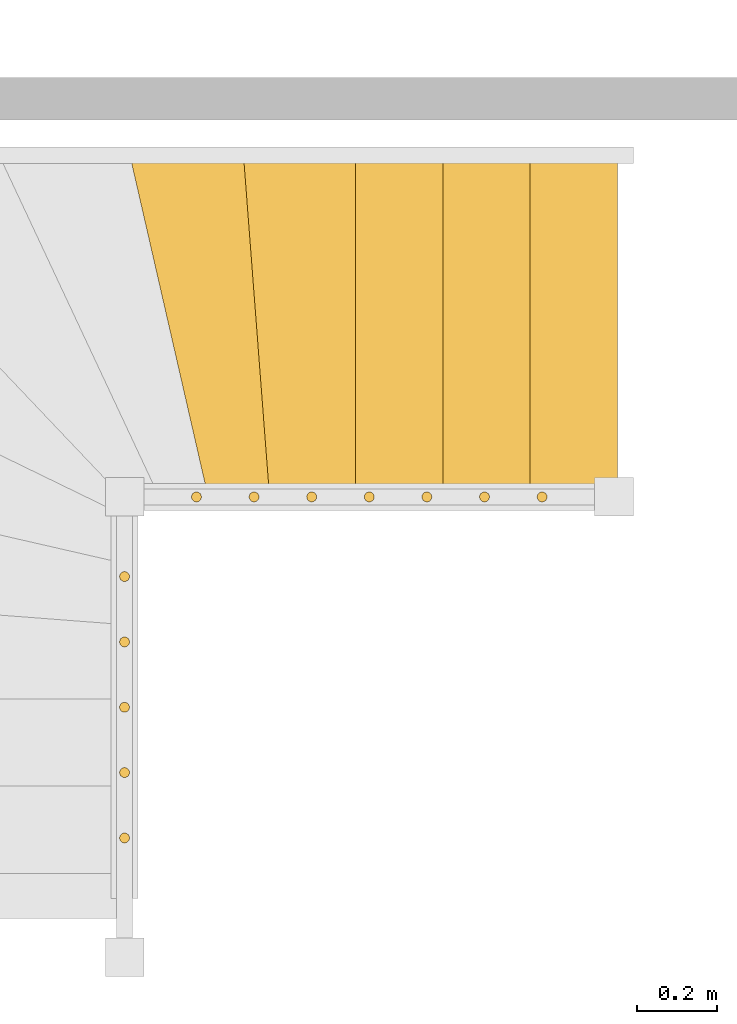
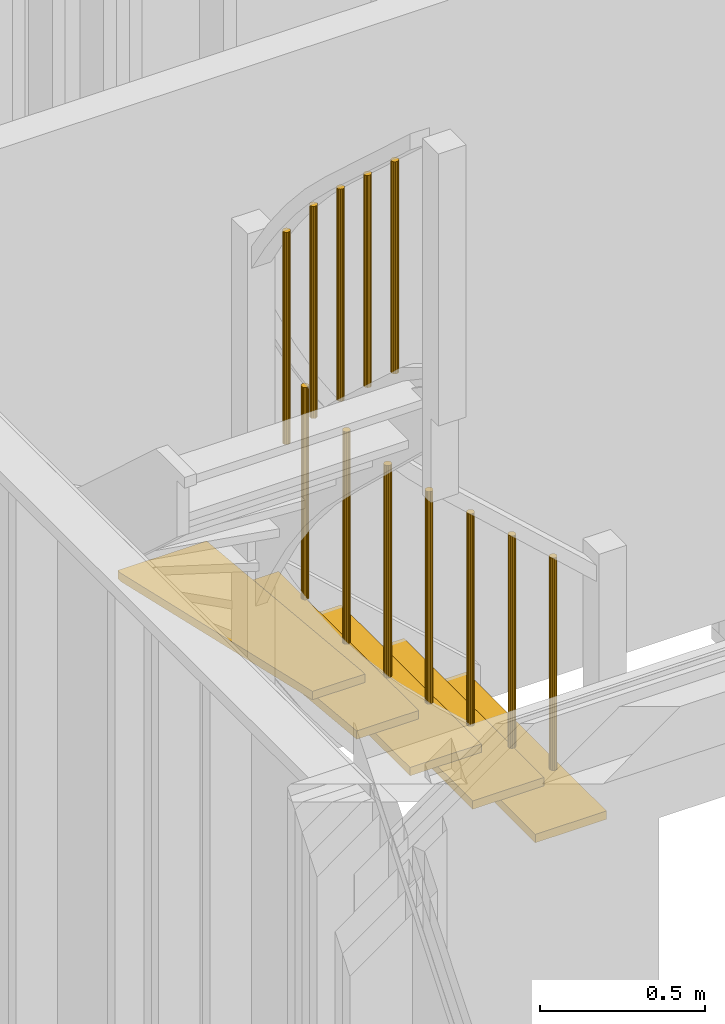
# One storey, part 32 of 34: 17 curtain walls.
"""IFC2X3 building model written with IfcOpenShell, lengths in metres."""

from ifc_helpers import new_model, si_unit, direction, frame, origin_with_axes, place, context, subcontext, project, spatial, faceted_brep, material, element, save


model = new_model("IFC2X3")

# Units and contexts
model_context = context("Model", 3, precision=1e-06, world=origin_with_axes(), true_north=direction((0.0, 1.0, 0.0)))
body_context = subcontext(model_context, "Body", "Model", "MODEL_VIEW")
ifc_project = project(units=[si_unit("LENGTHUNIT", "METRE"), si_unit("AREAUNIT", "SQUARE_METRE"), si_unit("VOLUMEUNIT", "CUBIC_METRE"), si_unit("PLANEANGLEUNIT", "RADIAN")], contexts=[model_context])

# Site, building, storey
site_placement = place(None, origin_with_axes())
site = spatial("IfcSite", under=ifc_project, at=site_placement, CompositionType="ELEMENT")
building_placement = place(site_placement, origin_with_axes())
building = spatial("IfcBuilding", under=site, at=building_placement, Name="Building 1", CompositionType="ELEMENT")
storey_placement = place(building_placement, origin_with_axes())
storey = spatial("IfcBuildingStorey", under=building, at=storey_placement, Name="Rez de chaussée", CompositionType="ELEMENT", Elevation=0.0)

# Curtain walls
ifc_material = material(Name="NH II")
curtain_wall_1_placement = place(storey_placement, frame((5.023565, 3.5032176, 0.756858), z_axis=(0.0, 0.0, 1.0), x_axis=(0.0, 1.0, 0.0)))
element("IfcCurtainWall", 1, at=curtain_wall_1_placement, inside=storey, material=ifc_material, Name="Escalier", context=body_context, shape_type="Brep", body=[
    faceted_brep([(0.85, -0.124685, -0.0155), (0.85, -0.124685, 0.0155), (0.0, -0.124685, 0.0155), (0.0, -0.124685, -0.0155), (0.85, 0.124685, 0.0155), (0.0, 0.124685, 0.0155), (0.85, 0.124685, -0.0155), (0.0, 0.124685, -0.0155)], [[[0, 1, 2, 3]], [[2, 1, 4, 5]], [[1, 0, 6, 4]], [[3, 2, 5, 7]], [[0, 3, 7, 6]], [[6, 7, 5, 4]]]),
])
curtain_wall_2_placement = place(storey_placement, frame((4.963, 3.4987176, 0.9963909), z_axis=(0.0, 0.0, 1.0), x_axis=(-1.0, 0.0, 0.0)))
element("IfcCurtainWall", 2, at=curtain_wall_2_placement, inside=storey, material=ifc_material, Name="Escalier", context=body_context, shape_type="Brep", body=[
    faceted_brep([(0.0117462, -0.0042753, 0.7861234), (0.0125, 0.0, 0.0), (0.0125, 0.0, 0.7861234), (0.0117462, 0.0042753, 0.0), (0.0117462, 0.0042753, 0.7861234), (0.0095756, 0.0080348, 0.0), (0.0095756, 0.0080348, 0.7861234), (0.00625, 0.0108253, 0.0), (0.00625, 0.0108253, 0.7861234), (0.0021706, 0.0123101, 0.0), (0.0021706, 0.0123101, 0.7861234), (-0.0021706, 0.0123101, 0.0), (-0.0021706, 0.0123101, 0.7861234), (-0.00625, 0.0108253, 0.0), (-0.00625, 0.0108253, 0.7861234), (-0.0095756, 0.0080348, 0.0), (-0.0095756, 0.0080348, 0.7861234), (-0.0117462, 0.0042753, 0.0), (-0.0117462, 0.0042753, 0.7861234), (-0.0125, 0.0, 0.0), (-0.0125, 0.0, 0.7861234), (-0.0117462, -0.0042753, 0.0), (-0.0117462, -0.0042753, 0.7861234), (-0.0095756, -0.0080348, 0.0), (-0.0095756, -0.0080348, 0.7861234), (-0.00625, -0.0108253, 0.0), (-0.00625, -0.0108253, 0.7861234), (-0.0021706, -0.0123101, 0.0), (-0.0021706, -0.0123101, 0.7861234), (0.0021706, -0.0123101, 0.0), (0.0021706, -0.0123101, 0.7861234), (0.00625, -0.0108253, 0.0), (0.00625, -0.0108253, 0.7861234), (0.0095756, -0.0080348, 0.0), (0.0095756, -0.0080348, 0.7861234), (0.0117462, -0.0042753, 0.0)], [[[0, 1, 2]], [[2, 1, 3]], [[2, 3, 4]], [[4, 3, 5]], [[4, 5, 6]], [[6, 5, 7]], [[6, 7, 8]], [[8, 7, 9]], [[8, 9, 10]], [[10, 9, 11]], [[10, 11, 12]], [[12, 11, 13]], [[12, 13, 14]], [[14, 13, 15]], [[14, 15, 16]], [[16, 15, 17]], [[16, 17, 18]], [[18, 17, 19]], [[18, 19, 20]], [[20, 19, 21]], [[20, 21, 22]], [[22, 21, 23]], [[22, 23, 24]], [[24, 23, 25]], [[24, 25, 26]], [[26, 25, 27]], [[26, 27, 28]], [[28, 27, 29]], [[28, 29, 30]], [[30, 29, 31]], [[30, 31, 32]], [[32, 31, 33]], [[32, 33, 34]], [[34, 33, 35]], [[34, 35, 0]], [[0, 35, 1]], [[10, 12, 8]], [[8, 12, 14]], [[8, 14, 6]], [[6, 14, 16]], [[6, 16, 4]], [[4, 16, 18]], [[4, 18, 2]], [[2, 18, 20]], [[2, 20, 0]], [[0, 20, 22]], [[0, 22, 34]], [[34, 22, 24]], [[34, 24, 32]], [[32, 24, 26]], [[32, 26, 30]], [[30, 26, 28]], [[29, 27, 31]], [[31, 27, 25]], [[31, 25, 33]], [[33, 25, 23]], [[33, 23, 35]], [[35, 23, 21]], [[35, 21, 1]], [[1, 21, 19]], [[1, 19, 3]], [[3, 19, 17]], [[3, 17, 5]], [[5, 17, 15]], [[5, 15, 7]], [[7, 15, 13]], [[7, 13, 9]], [[9, 13, 11]]]),
])
curtain_wall_3_placement = place(storey_placement, frame((4.5865516, 3.4914387, 1.15843), z_axis=(0.0, 0.0, 1.0), x_axis=(-0.0761669, 0.9970951, 0.0)))
element("IfcCurtainWall", 3, at=curtain_wall_3_placement, inside=storey, material=ifc_material, Name="Escalier", context=body_context, shape_type="Brep", body=[
    faceted_brep([(0.8601492, 0.1558642, 0.0155), (0.0140146, 0.028819, 0.0155), (0.0, -0.1546456, 0.0155), (0.0159535, -0.1558642, 0.0155), (0.8523833, -0.1558642, 0.0155), (0.8761027, 0.1546456, 0.0155), (0.8523833, -0.1558642, -0.0155), (0.8761027, 0.1546456, -0.0155), (0.0140146, 0.028819, -0.0155), (0.0, -0.1546456, -0.0155), (0.0159535, -0.1558642, -0.0155), (0.8601492, 0.1558642, -0.0155)], [[[0, 1, 2, 3, 4, 5]], [[4, 6, 7, 5]], [[1, 8, 9, 2]], [[9, 10, 3, 2]], [[7, 11, 0, 5]], [[10, 6, 4, 3]], [[8, 11, 7, 6, 10, 9]], [[11, 8, 1, 0]]]),
])
curtain_wall_4_placement = place(storey_placement, frame((5.462315, 3.5032176, 0.355286), z_axis=(0.0, 0.0, 1.0), x_axis=(0.0, 1.0, 0.0)))
element("IfcCurtainWall", 4, at=curtain_wall_4_placement, inside=storey, material=ifc_material, Name="Escalier", context=body_context, shape_type="Brep", body=[
    faceted_brep([(0.85, -0.124685, -0.0155), (0.85, -0.124685, 0.0155), (0.0, -0.124685, 0.0155), (0.0, -0.124685, -0.0155), (0.85, 0.124685, 0.0155), (0.0, 0.124685, 0.0155), (0.85, 0.124685, -0.0155), (0.0, 0.124685, -0.0155)], [[[0, 1, 2, 3]], [[2, 1, 4, 5]], [[1, 0, 6, 4]], [[3, 2, 5, 7]], [[0, 3, 7, 6]], [[6, 7, 5, 4]]]),
])
curtain_wall_5_placement = place(storey_placement, frame((4.818125, 3.4987176, 1.1439397), z_axis=(0.0, 0.0, 1.0), x_axis=(-1.0, 0.0, 0.0)))
element("IfcCurtainWall", 5, at=curtain_wall_5_placement, inside=storey, material=ifc_material, Name="Escalier", context=body_context, shape_type="Brep", body=[
    faceted_brep([(0.0117462, -0.0042753, 0.7861234), (0.0125, 0.0, 0.0), (0.0125, 0.0, 0.7861234), (0.0117462, 0.0042753, 0.0), (0.0117462, 0.0042753, 0.7861234), (0.0095756, 0.0080348, 0.0), (0.0095756, 0.0080348, 0.7861234), (0.00625, 0.0108253, 0.0), (0.00625, 0.0108253, 0.7861234), (0.0021706, 0.0123101, 0.0), (0.0021706, 0.0123101, 0.7861234), (-0.0021706, 0.0123101, 0.0), (-0.0021706, 0.0123101, 0.7861234), (-0.00625, 0.0108253, 0.0), (-0.00625, 0.0108253, 0.7861234), (-0.0095756, 0.0080348, 0.0), (-0.0095756, 0.0080348, 0.7861234), (-0.0117462, 0.0042753, 0.0), (-0.0117462, 0.0042753, 0.7861234), (-0.0125, 0.0, 0.0), (-0.0125, 0.0, 0.7861234), (-0.0117462, -0.0042753, 0.0), (-0.0117462, -0.0042753, 0.7861234), (-0.0095756, -0.0080348, 0.0), (-0.0095756, -0.0080348, 0.7861234), (-0.00625, -0.0108253, 0.0), (-0.00625, -0.0108253, 0.7861234), (-0.0021706, -0.0123101, 0.0), (-0.0021706, -0.0123101, 0.7861234), (0.0021706, -0.0123101, 0.0), (0.0021706, -0.0123101, 0.7861234), (0.00625, -0.0108253, 0.0), (0.00625, -0.0108253, 0.7861234), (0.0095756, -0.0080348, 0.0), (0.0095756, -0.0080348, 0.7861234), (0.0117462, -0.0042753, 0.0)], [[[0, 1, 2]], [[2, 1, 3]], [[2, 3, 4]], [[4, 3, 5]], [[4, 5, 6]], [[6, 5, 7]], [[6, 7, 8]], [[8, 7, 9]], [[8, 9, 10]], [[10, 9, 11]], [[10, 11, 12]], [[12, 11, 13]], [[12, 13, 14]], [[14, 13, 15]], [[14, 15, 16]], [[16, 15, 17]], [[16, 17, 18]], [[18, 17, 19]], [[18, 19, 20]], [[20, 19, 21]], [[20, 21, 22]], [[22, 21, 23]], [[22, 23, 24]], [[24, 23, 25]], [[24, 25, 26]], [[26, 25, 27]], [[26, 27, 28]], [[28, 27, 29]], [[28, 29, 30]], [[30, 29, 31]], [[30, 31, 32]], [[32, 31, 33]], [[32, 33, 34]], [[34, 33, 35]], [[34, 35, 0]], [[0, 35, 1]], [[10, 12, 8]], [[8, 12, 14]], [[8, 14, 6]], [[6, 14, 16]], [[6, 16, 4]], [[4, 16, 18]], [[4, 18, 2]], [[2, 18, 20]], [[2, 20, 0]], [[0, 20, 22]], [[0, 22, 34]], [[34, 22, 24]], [[34, 24, 32]], [[32, 24, 26]], [[32, 26, 30]], [[30, 26, 28]], [[29, 27, 31]], [[31, 27, 25]], [[31, 25, 33]], [[33, 25, 23]], [[33, 23, 35]], [[35, 23, 21]], [[35, 21, 1]], [[1, 21, 19]], [[1, 19, 3]], [[3, 19, 17]], [[3, 17, 5]], [[5, 17, 15]], [[5, 15, 7]], [[7, 15, 13]], [[7, 13, 9]], [[9, 13, 11]]]),
])
curtain_wall_6_placement = place(storey_placement, frame((4.3475, 2.6410509, 2.9539164), z_axis=(0.0, 0.0, 1.0), x_axis=(-1.0, 0.0, 0.0)))
element("IfcCurtainWall", 6, at=curtain_wall_6_placement, inside=storey, material=ifc_material, Name="Escalier", context=body_context, shape_type="Brep", body=[
    faceted_brep([(0.0117462, -0.0042753, 0.7861234), (0.0125, 0.0, 0.0), (0.0125, 0.0, 0.7861234), (0.0117462, 0.0042753, 0.0), (0.0117462, 0.0042753, 0.7861234), (0.0095756, 0.0080348, 0.0), (0.0095756, 0.0080348, 0.7861234), (0.00625, 0.0108253, 0.0), (0.00625, 0.0108253, 0.7861234), (0.0021706, 0.0123101, 0.0), (0.0021706, 0.0123101, 0.7861234), (-0.0021706, 0.0123101, 0.0), (-0.0021706, 0.0123101, 0.7861234), (-0.00625, 0.0108253, 0.0), (-0.00625, 0.0108253, 0.7861234), (-0.0095756, 0.0080348, 0.0), (-0.0095756, 0.0080348, 0.7861234), (-0.0117462, 0.0042753, 0.0), (-0.0117462, 0.0042753, 0.7861234), (-0.0125, 0.0, 0.0), (-0.0125, 0.0, 0.7861234), (-0.0117462, -0.0042753, 0.0), (-0.0117462, -0.0042753, 0.7861234), (-0.0095756, -0.0080348, 0.0), (-0.0095756, -0.0080348, 0.7861234), (-0.00625, -0.0108253, 0.0), (-0.00625, -0.0108253, 0.7861234), (-0.0021706, -0.0123101, 0.0), (-0.0021706, -0.0123101, 0.7861234), (0.0021706, -0.0123101, 0.0), (0.0021706, -0.0123101, 0.7861234), (0.00625, -0.0108253, 0.0), (0.00625, -0.0108253, 0.7861234), (0.0095756, -0.0080348, 0.0), (0.0095756, -0.0080348, 0.7861234), (0.0117462, -0.0042753, 0.0)], [[[0, 1, 2]], [[2, 1, 3]], [[2, 3, 4]], [[4, 3, 5]], [[4, 5, 6]], [[6, 5, 7]], [[6, 7, 8]], [[8, 7, 9]], [[8, 9, 10]], [[10, 9, 11]], [[10, 11, 12]], [[12, 11, 13]], [[12, 13, 14]], [[14, 13, 15]], [[14, 15, 16]], [[16, 15, 17]], [[16, 17, 18]], [[18, 17, 19]], [[18, 19, 20]], [[20, 19, 21]], [[20, 21, 22]], [[22, 21, 23]], [[22, 23, 24]], [[24, 23, 25]], [[24, 25, 26]], [[26, 25, 27]], [[26, 27, 28]], [[28, 27, 29]], [[28, 29, 30]], [[30, 29, 31]], [[30, 31, 32]], [[32, 31, 33]], [[32, 33, 34]], [[34, 33, 35]], [[34, 35, 0]], [[0, 35, 1]], [[10, 12, 8]], [[8, 12, 14]], [[8, 14, 6]], [[6, 14, 16]], [[6, 16, 4]], [[4, 16, 18]], [[4, 18, 2]], [[2, 18, 20]], [[2, 20, 0]], [[0, 20, 22]], [[0, 22, 34]], [[34, 22, 24]], [[34, 24, 32]], [[32, 24, 26]], [[32, 26, 30]], [[30, 26, 28]], [[29, 27, 31]], [[31, 27, 25]], [[31, 25, 33]], [[33, 25, 23]], [[33, 23, 35]], [[35, 23, 21]], [[35, 21, 1]], [[1, 21, 19]], [[1, 19, 3]], [[3, 19, 17]], [[3, 17, 5]], [[5, 17, 15]], [[5, 15, 7]], [[7, 15, 13]], [[7, 13, 9]], [[9, 13, 11]]]),
])
curtain_wall_7_placement = place(storey_placement, frame((4.3475, 3.2983842, 2.294061), z_axis=(0.0, 0.0, 1.0), x_axis=(-1.0, 0.0, 0.0)))
element("IfcCurtainWall", 7, at=curtain_wall_7_placement, inside=storey, material=ifc_material, Name="Escalier", context=body_context, shape_type="Brep", body=[
    faceted_brep([(0.0117462, -0.0042753, 0.7861234), (0.0125, 0.0, 0.0), (0.0125, 0.0, 0.7861234), (0.0117462, 0.0042753, 0.0), (0.0117462, 0.0042753, 0.7861234), (0.0095756, 0.0080348, 0.0), (0.0095756, 0.0080348, 0.7861234), (0.00625, 0.0108253, 0.0), (0.00625, 0.0108253, 0.7861234), (0.0021706, 0.0123101, 0.0), (0.0021706, 0.0123101, 0.7861234), (-0.0021706, 0.0123101, 0.0), (-0.0021706, 0.0123101, 0.7861234), (-0.00625, 0.0108253, 0.0), (-0.00625, 0.0108253, 0.7861234), (-0.0095756, 0.0080348, 0.0), (-0.0095756, 0.0080348, 0.7861234), (-0.0117462, 0.0042753, 0.0), (-0.0117462, 0.0042753, 0.7861234), (-0.0125, 0.0, 0.0), (-0.0125, 0.0, 0.7861234), (-0.0117462, -0.0042753, 0.0), (-0.0117462, -0.0042753, 0.7861234), (-0.0095756, -0.0080348, 0.0), (-0.0095756, -0.0080348, 0.7861234), (-0.00625, -0.0108253, 0.0), (-0.00625, -0.0108253, 0.7861234), (-0.0021706, -0.0123101, 0.0), (-0.0021706, -0.0123101, 0.7861234), (0.0021706, -0.0123101, 0.0), (0.0021706, -0.0123101, 0.7861234), (0.00625, -0.0108253, 0.0), (0.00625, -0.0108253, 0.7861234), (0.0095756, -0.0080348, 0.0), (0.0095756, -0.0080348, 0.7861234), (0.0117462, -0.0042753, 0.0)], [[[0, 1, 2]], [[2, 1, 3]], [[2, 3, 4]], [[4, 3, 5]], [[4, 5, 6]], [[6, 5, 7]], [[6, 7, 8]], [[8, 7, 9]], [[8, 9, 10]], [[10, 9, 11]], [[10, 11, 12]], [[12, 11, 13]], [[12, 13, 14]], [[14, 13, 15]], [[14, 15, 16]], [[16, 15, 17]], [[16, 17, 18]], [[18, 17, 19]], [[18, 19, 20]], [[20, 19, 21]], [[20, 21, 22]], [[22, 21, 23]], [[22, 23, 24]], [[24, 23, 25]], [[24, 25, 26]], [[26, 25, 27]], [[26, 27, 28]], [[28, 27, 29]], [[28, 29, 30]], [[30, 29, 31]], [[30, 31, 32]], [[32, 31, 33]], [[32, 33, 34]], [[34, 33, 35]], [[34, 35, 0]], [[0, 35, 1]], [[10, 12, 8]], [[8, 12, 14]], [[8, 14, 6]], [[6, 14, 16]], [[6, 16, 4]], [[4, 16, 18]], [[4, 18, 2]], [[2, 18, 20]], [[2, 20, 0]], [[0, 20, 22]], [[0, 22, 34]], [[34, 22, 24]], [[34, 24, 32]], [[32, 24, 26]], [[32, 26, 30]], [[30, 26, 28]], [[29, 27, 31]], [[31, 27, 25]], [[31, 25, 33]], [[33, 25, 23]], [[33, 23, 35]], [[35, 23, 21]], [[35, 21, 1]], [[1, 21, 19]], [[1, 19, 3]], [[3, 19, 17]], [[3, 17, 5]], [[5, 17, 15]], [[5, 15, 7]], [[7, 15, 13]], [[7, 13, 9]], [[9, 13, 11]]]),
])
curtain_wall_8_placement = place(storey_placement, frame((5.397625, 3.4987176, 0.5983395), z_axis=(0.0, 0.0, 1.0), x_axis=(-1.0, 0.0, 0.0)))
element("IfcCurtainWall", 8, at=curtain_wall_8_placement, inside=storey, material=ifc_material, Name="Escalier", context=body_context, shape_type="Brep", body=[
    faceted_brep([(0.0117462, -0.0042753, 0.7861234), (0.0125, 0.0, 0.0), (0.0125, 0.0, 0.7861234), (0.0117462, 0.0042753, 0.0), (0.0117462, 0.0042753, 0.7861234), (0.0095756, 0.0080348, 0.0), (0.0095756, 0.0080348, 0.7861234), (0.00625, 0.0108253, 0.0), (0.00625, 0.0108253, 0.7861234), (0.0021706, 0.0123101, 0.0), (0.0021706, 0.0123101, 0.7861234), (-0.0021706, 0.0123101, 0.0), (-0.0021706, 0.0123101, 0.7861234), (-0.00625, 0.0108253, 0.0), (-0.00625, 0.0108253, 0.7861234), (-0.0095756, 0.0080348, 0.0), (-0.0095756, 0.0080348, 0.7861234), (-0.0117462, 0.0042753, 0.0), (-0.0117462, 0.0042753, 0.7861234), (-0.0125, 0.0, 0.0), (-0.0125, 0.0, 0.7861234), (-0.0117462, -0.0042753, 0.0), (-0.0117462, -0.0042753, 0.7861234), (-0.0095756, -0.0080348, 0.0), (-0.0095756, -0.0080348, 0.7861234), (-0.00625, -0.0108253, 0.0), (-0.00625, -0.0108253, 0.7861234), (-0.0021706, -0.0123101, 0.0), (-0.0021706, -0.0123101, 0.7861234), (0.0021706, -0.0123101, 0.0), (0.0021706, -0.0123101, 0.7861234), (0.00625, -0.0108253, 0.0), (0.00625, -0.0108253, 0.7861234), (0.0095756, -0.0080348, 0.0), (0.0095756, -0.0080348, 0.7861234), (0.0117462, -0.0042753, 0.0)], [[[0, 1, 2]], [[2, 1, 3]], [[2, 3, 4]], [[4, 3, 5]], [[4, 5, 6]], [[6, 5, 7]], [[6, 7, 8]], [[8, 7, 9]], [[8, 9, 10]], [[10, 9, 11]], [[10, 11, 12]], [[12, 11, 13]], [[12, 13, 14]], [[14, 13, 15]], [[14, 15, 16]], [[16, 15, 17]], [[16, 17, 18]], [[18, 17, 19]], [[18, 19, 20]], [[20, 19, 21]], [[20, 21, 22]], [[22, 21, 23]], [[22, 23, 24]], [[24, 23, 25]], [[24, 25, 26]], [[26, 25, 27]], [[26, 27, 28]], [[28, 27, 29]], [[28, 29, 30]], [[30, 29, 31]], [[30, 31, 32]], [[32, 31, 33]], [[32, 33, 34]], [[34, 33, 35]], [[34, 35, 0]], [[0, 35, 1]], [[10, 12, 8]], [[8, 12, 14]], [[8, 14, 6]], [[6, 14, 16]], [[6, 16, 4]], [[4, 16, 18]], [[4, 18, 2]], [[2, 18, 20]], [[2, 20, 0]], [[0, 20, 22]], [[0, 22, 34]], [[34, 22, 24]], [[34, 24, 32]], [[32, 24, 26]], [[32, 26, 30]], [[30, 26, 28]], [[29, 27, 31]], [[31, 27, 25]], [[31, 25, 33]], [[33, 25, 23]], [[33, 23, 35]], [[35, 23, 21]], [[35, 21, 1]], [[1, 21, 19]], [[1, 19, 3]], [[3, 19, 17]], [[3, 17, 5]], [[5, 17, 15]], [[5, 15, 7]], [[7, 15, 13]], [[7, 13, 9]], [[9, 13, 11]]]),
])
curtain_wall_9_placement = place(storey_placement, frame((4.3475, 2.8053842, 2.8035051), z_axis=(0.0, 0.0, 1.0), x_axis=(-1.0, 0.0, 0.0)))
element("IfcCurtainWall", 9, at=curtain_wall_9_placement, inside=storey, material=ifc_material, Name="Escalier", context=body_context, shape_type="Brep", body=[
    faceted_brep([(0.0117462, -0.0042753, 0.7861234), (0.0125, 0.0, 0.0), (0.0125, 0.0, 0.7861234), (0.0117462, 0.0042753, 0.0), (0.0117462, 0.0042753, 0.7861234), (0.0095756, 0.0080348, 0.0), (0.0095756, 0.0080348, 0.7861234), (0.00625, 0.0108253, 0.0), (0.00625, 0.0108253, 0.7861234), (0.0021706, 0.0123101, 0.0), (0.0021706, 0.0123101, 0.7861234), (-0.0021706, 0.0123101, 0.0), (-0.0021706, 0.0123101, 0.7861234), (-0.00625, 0.0108253, 0.0), (-0.00625, 0.0108253, 0.7861234), (-0.0095756, 0.0080348, 0.0), (-0.0095756, 0.0080348, 0.7861234), (-0.0117462, 0.0042753, 0.0), (-0.0117462, 0.0042753, 0.7861234), (-0.0125, 0.0, 0.0), (-0.0125, 0.0, 0.7861234), (-0.0117462, -0.0042753, 0.0), (-0.0117462, -0.0042753, 0.7861234), (-0.0095756, -0.0080348, 0.0), (-0.0095756, -0.0080348, 0.7861234), (-0.00625, -0.0108253, 0.0), (-0.00625, -0.0108253, 0.7861234), (-0.0021706, -0.0123101, 0.0), (-0.0021706, -0.0123101, 0.7861234), (0.0021706, -0.0123101, 0.0), (0.0021706, -0.0123101, 0.7861234), (0.00625, -0.0108253, 0.0), (0.00625, -0.0108253, 0.7861234), (0.0095756, -0.0080348, 0.0), (0.0095756, -0.0080348, 0.7861234), (0.0117462, -0.0042753, 0.0)], [[[0, 1, 2]], [[2, 1, 3]], [[2, 3, 4]], [[4, 3, 5]], [[4, 5, 6]], [[6, 5, 7]], [[6, 7, 8]], [[8, 7, 9]], [[8, 9, 10]], [[10, 9, 11]], [[10, 11, 12]], [[12, 11, 13]], [[12, 13, 14]], [[14, 13, 15]], [[14, 15, 16]], [[16, 15, 17]], [[16, 17, 18]], [[18, 17, 19]], [[18, 19, 20]], [[20, 19, 21]], [[20, 21, 22]], [[22, 21, 23]], [[22, 23, 24]], [[24, 23, 25]], [[24, 25, 26]], [[26, 25, 27]], [[26, 27, 28]], [[28, 27, 29]], [[28, 29, 30]], [[30, 29, 31]], [[30, 31, 32]], [[32, 31, 33]], [[32, 33, 34]], [[34, 33, 35]], [[34, 35, 0]], [[0, 35, 1]], [[10, 12, 8]], [[8, 12, 14]], [[8, 14, 6]], [[6, 14, 16]], [[6, 16, 4]], [[4, 16, 18]], [[4, 18, 2]], [[2, 18, 20]], [[2, 20, 0]], [[0, 20, 22]], [[0, 22, 34]], [[34, 22, 24]], [[34, 24, 32]], [[32, 24, 26]], [[32, 26, 30]], [[30, 26, 28]], [[29, 27, 31]], [[31, 27, 25]], [[31, 25, 33]], [[33, 25, 23]], [[33, 23, 35]], [[35, 23, 21]], [[35, 21, 1]], [[1, 21, 19]], [[1, 19, 3]], [[3, 19, 17]], [[3, 17, 5]], [[5, 17, 15]], [[5, 15, 7]], [[7, 15, 13]], [[7, 13, 9]], [[9, 13, 11]]]),
])
curtain_wall_10_placement = place(storey_placement, frame((4.3475, 3.1340509, 2.4899272), z_axis=(0.0, 0.0, 1.0), x_axis=(-1.0, 0.0, 0.0)))
element("IfcCurtainWall", 10, at=curtain_wall_10_placement, inside=storey, material=ifc_material, Name="Escalier", context=body_context, shape_type="Brep", body=[
    faceted_brep([(0.0117462, -0.0042753, 0.7861234), (0.0125, 0.0, 0.0), (0.0125, 0.0, 0.7861234), (0.0117462, 0.0042753, 0.0), (0.0117462, 0.0042753, 0.7861234), (0.0095756, 0.0080348, 0.0), (0.0095756, 0.0080348, 0.7861234), (0.00625, 0.0108253, 0.0), (0.00625, 0.0108253, 0.7861234), (0.0021706, 0.0123101, 0.0), (0.0021706, 0.0123101, 0.7861234), (-0.0021706, 0.0123101, 0.0), (-0.0021706, 0.0123101, 0.7861234), (-0.00625, 0.0108253, 0.0), (-0.00625, 0.0108253, 0.7861234), (-0.0095756, 0.0080348, 0.0), (-0.0095756, 0.0080348, 0.7861234), (-0.0117462, 0.0042753, 0.0), (-0.0117462, 0.0042753, 0.7861234), (-0.0125, 0.0, 0.0), (-0.0125, 0.0, 0.7861234), (-0.0117462, -0.0042753, 0.0), (-0.0117462, -0.0042753, 0.7861234), (-0.0095756, -0.0080348, 0.0), (-0.0095756, -0.0080348, 0.7861234), (-0.00625, -0.0108253, 0.0), (-0.00625, -0.0108253, 0.7861234), (-0.0021706, -0.0123101, 0.0), (-0.0021706, -0.0123101, 0.7861234), (0.0021706, -0.0123101, 0.0), (0.0021706, -0.0123101, 0.7861234), (0.00625, -0.0108253, 0.0), (0.00625, -0.0108253, 0.7861234), (0.0095756, -0.0080348, 0.0), (0.0095756, -0.0080348, 0.7861234), (0.0117462, -0.0042753, 0.0)], [[[0, 1, 2]], [[2, 1, 3]], [[2, 3, 4]], [[4, 3, 5]], [[4, 5, 6]], [[6, 5, 7]], [[6, 7, 8]], [[8, 7, 9]], [[8, 9, 10]], [[10, 9, 11]], [[10, 11, 12]], [[12, 11, 13]], [[12, 13, 14]], [[14, 13, 15]], [[14, 15, 16]], [[16, 15, 17]], [[16, 17, 18]], [[18, 17, 19]], [[18, 19, 20]], [[20, 19, 21]], [[20, 21, 22]], [[22, 21, 23]], [[22, 23, 24]], [[24, 23, 25]], [[24, 25, 26]], [[26, 25, 27]], [[26, 27, 28]], [[28, 27, 29]], [[28, 29, 30]], [[30, 29, 31]], [[30, 31, 32]], [[32, 31, 33]], [[32, 33, 34]], [[34, 33, 35]], [[34, 35, 0]], [[0, 35, 1]], [[10, 12, 8]], [[8, 12, 14]], [[8, 14, 6]], [[6, 14, 16]], [[6, 16, 4]], [[4, 16, 18]], [[4, 18, 2]], [[2, 18, 20]], [[2, 20, 0]], [[0, 20, 22]], [[0, 22, 34]], [[34, 22, 24]], [[34, 24, 32]], [[32, 24, 26]], [[32, 26, 30]], [[30, 26, 28]], [[29, 27, 31]], [[31, 27, 25]], [[31, 25, 33]], [[33, 25, 23]], [[33, 23, 35]], [[35, 23, 21]], [[35, 21, 1]], [[1, 21, 19]], [[1, 19, 3]], [[3, 19, 17]], [[3, 17, 5]], [[5, 17, 15]], [[5, 15, 7]], [[7, 15, 13]], [[7, 13, 9]], [[9, 13, 11]]]),
])
curtain_wall_11_placement = place(storey_placement, frame((5.242938, 3.5032176, 0.556072), z_axis=(0.0, 0.0, 1.0), x_axis=(0.0, 1.0, 0.0)))
element("IfcCurtainWall", 11, at=curtain_wall_11_placement, inside=storey, material=ifc_material, Name="Escalier", context=body_context, shape_type="Brep", body=[
    faceted_brep([(0.0, 0.124685, -0.0155), (0.0, -0.124685, -0.0155), (0.0, -0.124685, 0.0155), (0.0, 0.124685, 0.0155), (0.85, -0.124685, -0.0155), (0.85, 0.124685, -0.0155), (0.85, 0.124685, 0.0155), (0.85, -0.124685, 0.0155)], [[[0, 1, 2, 3]], [[4, 5, 6, 7]], [[1, 4, 7, 2]], [[2, 7, 6, 3]], [[0, 5, 4, 1]], [[5, 0, 3, 6]]]),
])
curtain_wall_12_placement = place(storey_placement, frame((4.7885268, 3.5032176, 0.957644), z_axis=(0.0, 0.0, 1.0), x_axis=(0.0, 1.0, 0.0)))
element("IfcCurtainWall", 12, at=curtain_wall_12_placement, inside=storey, material=ifc_material, Name="Escalier", context=body_context, shape_type="Brep", body=[
    faceted_brep([(0.0, 0.076644, -0.0155), (0.834, 0.1403522, -0.0155), (0.85, 0.1403522, -0.0155), (0.85, -0.1403522, -0.0155), (0.0, -0.1403522, -0.0155), (0.0, 0.076644, 0.0155), (0.0, -0.1403522, 0.0155), (0.85, 0.1403522, 0.0155), (0.85, -0.1403522, 0.0155), (0.834, 0.1403522, 0.0155)], [[[0, 1, 2, 3, 4]], [[5, 0, 4, 6]], [[3, 2, 7, 8]], [[2, 1, 9, 7]], [[4, 3, 8, 6]], [[9, 5, 6, 8, 7]], [[1, 0, 5, 9]]]),
])
curtain_wall_13_placement = place(storey_placement, frame((4.3475, 2.9697176, 2.6530937), z_axis=(0.0, 0.0, 1.0), x_axis=(-1.0, 0.0, 0.0)))
element("IfcCurtainWall", 13, at=curtain_wall_13_placement, inside=storey, material=ifc_material, Name="Escalier", context=body_context, shape_type="Brep", body=[
    faceted_brep([(0.0117462, -0.0042753, 0.7861234), (0.0125, 0.0, 0.0), (0.0125, 0.0, 0.7861234), (0.0117462, 0.0042753, 0.0), (0.0117462, 0.0042753, 0.7861234), (0.0095756, 0.0080348, 0.0), (0.0095756, 0.0080348, 0.7861234), (0.00625, 0.0108253, 0.0), (0.00625, 0.0108253, 0.7861234), (0.0021706, 0.0123101, 0.0), (0.0021706, 0.0123101, 0.7861234), (-0.0021706, 0.0123101, 0.0), (-0.0021706, 0.0123101, 0.7861234), (-0.00625, 0.0108253, 0.0), (-0.00625, 0.0108253, 0.7861234), (-0.0095756, 0.0080348, 0.0), (-0.0095756, 0.0080348, 0.7861234), (-0.0117462, 0.0042753, 0.0), (-0.0117462, 0.0042753, 0.7861234), (-0.0125, 0.0, 0.0), (-0.0125, 0.0, 0.7861234), (-0.0117462, -0.0042753, 0.0), (-0.0117462, -0.0042753, 0.7861234), (-0.0095756, -0.0080348, 0.0), (-0.0095756, -0.0080348, 0.7861234), (-0.00625, -0.0108253, 0.0), (-0.00625, -0.0108253, 0.7861234), (-0.0021706, -0.0123101, 0.0), (-0.0021706, -0.0123101, 0.7861234), (0.0021706, -0.0123101, 0.0), (0.0021706, -0.0123101, 0.7861234), (0.00625, -0.0108253, 0.0), (0.00625, -0.0108253, 0.7861234), (0.0095756, -0.0080348, 0.0), (0.0095756, -0.0080348, 0.7861234), (0.0117462, -0.0042753, 0.0)], [[[0, 1, 2]], [[2, 1, 3]], [[2, 3, 4]], [[4, 3, 5]], [[4, 5, 6]], [[6, 5, 7]], [[6, 7, 8]], [[8, 7, 9]], [[8, 9, 10]], [[10, 9, 11]], [[10, 11, 12]], [[12, 11, 13]], [[12, 13, 14]], [[14, 13, 15]], [[14, 15, 16]], [[16, 15, 17]], [[16, 17, 18]], [[18, 17, 19]], [[18, 19, 20]], [[20, 19, 21]], [[20, 21, 22]], [[22, 21, 23]], [[22, 23, 24]], [[24, 23, 25]], [[24, 25, 26]], [[26, 25, 27]], [[26, 27, 28]], [[28, 27, 29]], [[28, 29, 30]], [[30, 29, 31]], [[30, 31, 32]], [[32, 31, 33]], [[32, 33, 34]], [[34, 33, 35]], [[34, 35, 0]], [[0, 35, 1]], [[10, 12, 8]], [[8, 12, 14]], [[8, 14, 6]], [[6, 14, 16]], [[6, 16, 4]], [[4, 16, 18]], [[4, 18, 2]], [[2, 18, 20]], [[2, 20, 0]], [[0, 20, 22]], [[0, 22, 34]], [[34, 22, 24]], [[34, 24, 32]], [[32, 24, 26]], [[32, 26, 30]], [[30, 26, 28]], [[29, 27, 31]], [[31, 27, 25]], [[31, 25, 33]], [[33, 25, 23]], [[33, 23, 35]], [[35, 23, 21]], [[35, 21, 1]], [[1, 21, 19]], [[1, 19, 3]], [[3, 19, 17]], [[3, 17, 5]], [[5, 17, 15]], [[5, 15, 7]], [[7, 15, 13]], [[7, 13, 9]], [[9, 13, 11]]]),
])
curtain_wall_14_placement = place(storey_placement, frame((4.67325, 3.4987176, 1.3195567), z_axis=(0.0, 0.0, 1.0), x_axis=(-1.0, 0.0, 0.0)))
element("IfcCurtainWall", 14, at=curtain_wall_14_placement, inside=storey, material=ifc_material, Name="Escalier", context=body_context, shape_type="Brep", body=[
    faceted_brep([(0.0117462, -0.0042753, 0.7861234), (0.0125, 0.0, 0.0), (0.0125, 0.0, 0.7861234), (0.0117462, 0.0042753, 0.0), (0.0117462, 0.0042753, 0.7861234), (0.0095756, 0.0080348, 0.0), (0.0095756, 0.0080348, 0.7861234), (0.00625, 0.0108253, 0.0), (0.00625, 0.0108253, 0.7861234), (0.0021706, 0.0123101, 0.0), (0.0021706, 0.0123101, 0.7861234), (-0.0021706, 0.0123101, 0.0), (-0.0021706, 0.0123101, 0.7861234), (-0.00625, 0.0108253, 0.0), (-0.00625, 0.0108253, 0.7861234), (-0.0095756, 0.0080348, 0.0), (-0.0095756, 0.0080348, 0.7861234), (-0.0117462, 0.0042753, 0.0), (-0.0117462, 0.0042753, 0.7861234), (-0.0125, 0.0, 0.0), (-0.0125, 0.0, 0.7861234), (-0.0117462, -0.0042753, 0.0), (-0.0117462, -0.0042753, 0.7861234), (-0.0095756, -0.0080348, 0.0), (-0.0095756, -0.0080348, 0.7861234), (-0.00625, -0.0108253, 0.0), (-0.00625, -0.0108253, 0.7861234), (-0.0021706, -0.0123101, 0.0), (-0.0021706, -0.0123101, 0.7861234), (0.0021706, -0.0123101, 0.0), (0.0021706, -0.0123101, 0.7861234), (0.00625, -0.0108253, 0.0), (0.00625, -0.0108253, 0.7861234), (0.0095756, -0.0080348, 0.0), (0.0095756, -0.0080348, 0.7861234), (0.0117462, -0.0042753, 0.0)], [[[0, 1, 2]], [[2, 1, 3]], [[2, 3, 4]], [[4, 3, 5]], [[4, 5, 6]], [[6, 5, 7]], [[6, 7, 8]], [[8, 7, 9]], [[8, 9, 10]], [[10, 9, 11]], [[10, 11, 12]], [[12, 11, 13]], [[12, 13, 14]], [[14, 13, 15]], [[14, 15, 16]], [[16, 15, 17]], [[16, 17, 18]], [[18, 17, 19]], [[18, 19, 20]], [[20, 19, 21]], [[20, 21, 22]], [[22, 21, 23]], [[22, 23, 24]], [[24, 23, 25]], [[24, 25, 26]], [[26, 25, 27]], [[26, 27, 28]], [[28, 27, 29]], [[28, 29, 30]], [[30, 29, 31]], [[30, 31, 32]], [[32, 31, 33]], [[32, 33, 34]], [[34, 33, 35]], [[34, 35, 0]], [[0, 35, 1]], [[10, 12, 8]], [[8, 12, 14]], [[8, 14, 6]], [[6, 14, 16]], [[6, 16, 4]], [[4, 16, 18]], [[4, 18, 2]], [[2, 18, 20]], [[2, 20, 0]], [[0, 20, 22]], [[0, 22, 34]], [[34, 22, 24]], [[34, 24, 32]], [[32, 24, 26]], [[32, 26, 30]], [[30, 26, 28]], [[29, 27, 31]], [[31, 27, 25]], [[31, 25, 33]], [[33, 25, 23]], [[33, 23, 35]], [[35, 23, 21]], [[35, 21, 1]], [[1, 21, 19]], [[1, 19, 3]], [[3, 19, 17]], [[3, 17, 5]], [[5, 17, 15]], [[5, 15, 7]], [[7, 15, 13]], [[7, 13, 9]], [[9, 13, 11]]]),
])
curtain_wall_15_placement = place(storey_placement, frame((4.528375, 3.4987176, 1.534617), z_axis=(0.0, 0.0, 1.0), x_axis=(-1.0, 0.0, 0.0)))
element("IfcCurtainWall", 15, at=curtain_wall_15_placement, inside=storey, material=ifc_material, Name="Escalier", context=body_context, shape_type="Brep", body=[
    faceted_brep([(0.0117462, -0.0042753, 0.7861234), (0.0125, 0.0, 0.0), (0.0125, 0.0, 0.7861297), (0.0117462, 0.0042753, 0.0), (0.0117462, 0.0042753, 0.7861234), (0.0095756, 0.0080348, 0.0), (0.0095756, 0.0080348, 0.7861234), (0.00625, 0.0108253, 0.0), (0.00625, 0.0108253, 0.7861234), (0.0021706, 0.0123101, 0.0), (0.0021706, 0.0123101, 0.7861234), (-0.0021706, 0.0123101, 0.0), (-0.0021706, 0.0123101, 0.7861234), (-0.00625, 0.0108253, 0.0), (-0.00625, 0.0108253, 0.7861234), (-0.0095756, 0.0080348, 0.0), (-0.0095756, 0.0080348, 0.7861234), (-0.0117462, 0.0042753, 0.0), (-0.0117462, 0.0042753, 0.7861234), (-0.0125, 0.0, 0.0), (-0.0125, 0.0, 0.7861234), (-0.0117462, -0.0042753, 0.0), (-0.0117462, -0.0042753, 0.7861234), (-0.0095756, -0.0080348, 0.0), (-0.0095756, -0.0080348, 0.7861234), (-0.00625, -0.0108253, 0.0), (-0.00625, -0.0108253, 0.7861234), (-0.0021706, -0.0123101, 0.0), (-0.0021706, -0.0123101, 0.7861234), (0.0021706, -0.0123101, 0.0), (0.0021706, -0.0123101, 0.7861234), (0.00625, -0.0108253, 0.0), (0.00625, -0.0108253, 0.7861234), (0.0095756, -0.0080348, 0.0), (0.0095756, -0.0080348, 0.7861234), (0.0117462, -0.0042753, 0.0)], [[[0, 1, 2]], [[2, 1, 3]], [[2, 3, 4]], [[4, 3, 5]], [[4, 5, 6]], [[6, 5, 7]], [[6, 7, 8]], [[8, 7, 9]], [[8, 9, 10]], [[10, 9, 11]], [[10, 11, 12]], [[12, 11, 13]], [[12, 13, 14]], [[14, 13, 15]], [[14, 15, 16]], [[16, 15, 17]], [[16, 17, 18]], [[18, 17, 19]], [[18, 19, 20]], [[20, 19, 21]], [[20, 21, 22]], [[22, 21, 23]], [[22, 23, 24]], [[24, 23, 25]], [[24, 25, 26]], [[26, 25, 27]], [[26, 27, 28]], [[28, 27, 29]], [[28, 29, 30]], [[30, 29, 31]], [[30, 31, 32]], [[32, 31, 33]], [[32, 33, 34]], [[34, 33, 35]], [[34, 35, 0]], [[0, 35, 1]], [[10, 12, 8]], [[8, 12, 14]], [[8, 14, 6]], [[6, 14, 16]], [[6, 16, 4]], [[4, 16, 18]], [[4, 18, 2]], [[2, 18, 20]], [[2, 20, 0]], [[0, 20, 22]], [[0, 22, 34]], [[34, 22, 24]], [[34, 24, 32]], [[32, 24, 26]], [[32, 26, 30]], [[30, 26, 28]], [[29, 27, 31]], [[31, 27, 25]], [[31, 25, 33]], [[33, 25, 23]], [[33, 23, 35]], [[35, 23, 21]], [[35, 21, 1]], [[1, 21, 19]], [[1, 19, 3]], [[3, 19, 17]], [[3, 17, 5]], [[5, 17, 15]], [[5, 15, 7]], [[7, 15, 13]], [[7, 13, 9]], [[9, 13, 11]]]),
])
curtain_wall_16_placement = place(storey_placement, frame((5.25275, 3.4987176, 0.7309389), z_axis=(0.0, 0.0, 1.0), x_axis=(-1.0, 0.0, 0.0)))
element("IfcCurtainWall", 16, at=curtain_wall_16_placement, inside=storey, material=ifc_material, Name="Escalier", context=body_context, shape_type="Brep", body=[
    faceted_brep([(0.0117462, -0.0042753, 0.7861234), (0.0125, 0.0, 0.0), (0.0125, 0.0, 0.7861297), (0.0117462, 0.0042753, 0.0), (0.0117462, 0.0042753, 0.7861234), (0.0095756, 0.0080348, 0.0), (0.0095756, 0.0080348, 0.7861234), (0.00625, 0.0108253, 0.0), (0.00625, 0.0108253, 0.7861234), (0.0021706, 0.0123101, 0.0), (0.0021706, 0.0123101, 0.7861234), (-0.0021706, 0.0123101, 0.0), (-0.0021706, 0.0123101, 0.7861234), (-0.00625, 0.0108253, 0.0), (-0.00625, 0.0108253, 0.7861234), (-0.0095756, 0.0080348, 0.0), (-0.0095756, 0.0080348, 0.7861234), (-0.0117462, 0.0042753, 0.0), (-0.0117462, 0.0042753, 0.7861234), (-0.0125, 0.0, 0.0), (-0.0125, 0.0, 0.7861234), (-0.0117462, -0.0042753, 0.0), (-0.0117462, -0.0042753, 0.7861234), (-0.0095756, -0.0080348, 0.0), (-0.0095756, -0.0080348, 0.7861234), (-0.00625, -0.0108253, 0.0), (-0.00625, -0.0108253, 0.7861234), (-0.0021706, -0.0123101, 0.0), (-0.0021706, -0.0123101, 0.7861234), (0.0021706, -0.0123101, 0.0), (0.0021706, -0.0123101, 0.7861234), (0.00625, -0.0108253, 0.0), (0.00625, -0.0108253, 0.7861234), (0.0095756, -0.0080348, 0.0), (0.0095756, -0.0080348, 0.7861234), (0.0117462, -0.0042753, 0.0)], [[[0, 1, 2]], [[2, 1, 3]], [[2, 3, 4]], [[4, 3, 5]], [[4, 5, 6]], [[6, 5, 7]], [[6, 7, 8]], [[8, 7, 9]], [[8, 9, 10]], [[10, 9, 11]], [[10, 11, 12]], [[12, 11, 13]], [[12, 13, 14]], [[14, 13, 15]], [[14, 15, 16]], [[16, 15, 17]], [[16, 17, 18]], [[18, 17, 19]], [[18, 19, 20]], [[20, 19, 21]], [[20, 21, 22]], [[22, 21, 23]], [[22, 23, 24]], [[24, 23, 25]], [[24, 25, 26]], [[26, 25, 27]], [[26, 27, 28]], [[28, 27, 29]], [[28, 29, 30]], [[30, 29, 31]], [[30, 31, 32]], [[32, 31, 33]], [[32, 33, 34]], [[34, 33, 35]], [[34, 35, 0]], [[0, 35, 1]], [[10, 12, 8]], [[8, 12, 14]], [[8, 14, 6]], [[6, 14, 16]], [[6, 16, 4]], [[4, 16, 18]], [[4, 18, 2]], [[2, 18, 20]], [[2, 20, 0]], [[0, 20, 22]], [[0, 22, 34]], [[34, 22, 24]], [[34, 24, 32]], [[32, 24, 26]], [[32, 26, 30]], [[30, 26, 28]], [[29, 27, 31]], [[31, 27, 25]], [[31, 25, 33]], [[33, 25, 23]], [[33, 23, 35]], [[35, 23, 21]], [[35, 21, 1]], [[1, 21, 19]], [[1, 19, 3]], [[3, 19, 17]], [[3, 17, 5]], [[5, 17, 15]], [[5, 15, 7]], [[7, 15, 13]], [[7, 13, 9]], [[9, 13, 11]]]),
])
curtain_wall_17_placement = place(storey_placement, frame((5.107875, 3.4987176, 0.8635383), z_axis=(0.0, 0.0, 1.0), x_axis=(-1.0, 0.0, 0.0)))
element("IfcCurtainWall", 17, at=curtain_wall_17_placement, inside=storey, material=ifc_material, Name="Escalier", context=body_context, shape_type="Brep", body=[
    faceted_brep([(0.0117462, -0.0042753, 0.7861234), (0.0125, 0.0, 0.0), (0.0125, 0.0, 0.7861234), (0.0117462, 0.0042753, 0.0), (0.0117462, 0.0042753, 0.7861234), (0.0095756, 0.0080348, 0.0), (0.0095756, 0.0080348, 0.7861234), (0.00625, 0.0108253, 0.0), (0.00625, 0.0108253, 0.7861234), (0.0021706, 0.0123101, 0.0), (0.0021706, 0.0123101, 0.7861234), (-0.0021706, 0.0123101, 0.0), (-0.0021706, 0.0123101, 0.7861234), (-0.00625, 0.0108253, 0.0), (-0.00625, 0.0108253, 0.7861234), (-0.0095756, 0.0080348, 0.0), (-0.0095756, 0.0080348, 0.7861234), (-0.0117462, 0.0042753, 0.0), (-0.0117462, 0.0042753, 0.7861234), (-0.0125, 0.0, 0.0), (-0.0125, 0.0, 0.7861234), (-0.0117462, -0.0042753, 0.0), (-0.0117462, -0.0042753, 0.7861234), (-0.0095756, -0.0080348, 0.0), (-0.0095756, -0.0080348, 0.7861234), (-0.00625, -0.0108253, 0.0), (-0.00625, -0.0108253, 0.7861234), (-0.0021706, -0.0123101, 0.0), (-0.0021706, -0.0123101, 0.7861234), (0.0021706, -0.0123101, 0.0), (0.0021706, -0.0123101, 0.7861234), (0.00625, -0.0108253, 0.0), (0.00625, -0.0108253, 0.7861234), (0.0095756, -0.0080348, 0.0), (0.0095756, -0.0080348, 0.7861234), (0.0117462, -0.0042753, 0.0)], [[[0, 1, 2]], [[2, 1, 3]], [[2, 3, 4]], [[4, 3, 5]], [[4, 5, 6]], [[6, 5, 7]], [[6, 7, 8]], [[8, 7, 9]], [[8, 9, 10]], [[10, 9, 11]], [[10, 11, 12]], [[12, 11, 13]], [[12, 13, 14]], [[14, 13, 15]], [[14, 15, 16]], [[16, 15, 17]], [[16, 17, 18]], [[18, 17, 19]], [[18, 19, 20]], [[20, 19, 21]], [[20, 21, 22]], [[22, 21, 23]], [[22, 23, 24]], [[24, 23, 25]], [[24, 25, 26]], [[26, 25, 27]], [[26, 27, 28]], [[28, 27, 29]], [[28, 29, 30]], [[30, 29, 31]], [[30, 31, 32]], [[32, 31, 33]], [[32, 33, 34]], [[34, 33, 35]], [[34, 35, 0]], [[0, 35, 1]], [[10, 12, 8]], [[8, 12, 14]], [[8, 14, 6]], [[6, 14, 16]], [[6, 16, 4]], [[4, 16, 18]], [[4, 18, 2]], [[2, 18, 20]], [[2, 20, 0]], [[0, 20, 22]], [[0, 22, 34]], [[34, 22, 24]], [[34, 24, 32]], [[32, 24, 26]], [[32, 26, 30]], [[30, 26, 28]], [[29, 27, 31]], [[31, 27, 25]], [[31, 25, 33]], [[33, 25, 23]], [[33, 23, 35]], [[35, 23, 21]], [[35, 21, 1]], [[1, 21, 19]], [[1, 19, 3]], [[3, 19, 17]], [[3, 17, 5]], [[5, 17, 15]], [[5, 15, 7]], [[7, 15, 13]], [[7, 13, 9]], [[9, 13, 11]]]),
])

save(model, "model.ifc")
